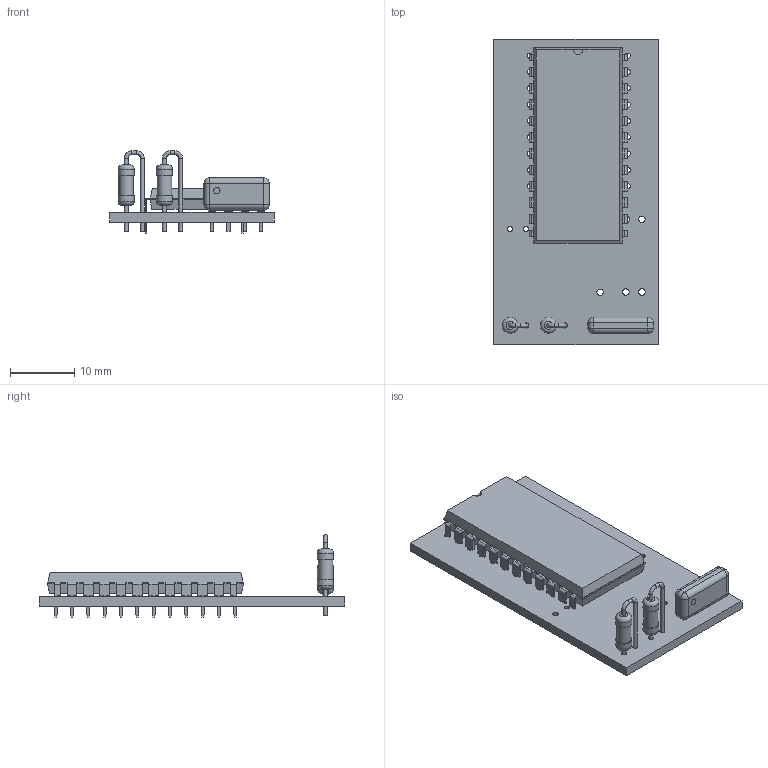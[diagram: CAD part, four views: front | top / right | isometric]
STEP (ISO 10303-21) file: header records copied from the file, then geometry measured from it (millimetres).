
FILE_DESCRIPTION(('KiCad electronic assembly'),'2;1');
FILE_NAME('.step','2026-08-29T18:44:14',('Pcbnew'),('Kicad'), 'Open CASCADE STEP processor 7.9','KiCad to STEP converter','Unknown' );
FILE_SCHEMA(('AUTOMOTIVE_DESIGN { 1 0 10303 214 1 1 1 1 }'));
Length unit declared in the file: millimetre
Products named in the file (8): .step 1; DIP-24_W15.24mm; DIP_24_W1524mm; R_Array_SIP4; R_Axial_DIN0207_L6.3mm_D2.5mm_P2.54mm_Vertical; R_Axial_DIN0207_L63mm_D25mm_P254mm_Vertical; Counter_PCB
Assembly tree (8 placements, depth 3):
  .step 1
    DIP-24_W15.24mm
      DIP_24_W1524mm
    R_Array_SIP4
      R_Array_SIP4
    R_Axial_DIN0207_L6.3mm_D2.5mm_P2.54mm_Vertical  x2
      R_Axial_DIN0207_L63mm_D25mm_P254mm_Vertical
    Counter_PCB
Bounding box: 25.5 x 47.5 x 12.8 mm (x, y, z)
Volume: 3342.6 mm3; surface area: 4496.1 mm2
Topology: 5 solids, 5 shells, 589 faces, 1510 edges, 938 vertices
Faces by surface type: plane 400, cylinder 113, bspline 60, sphere 8, torus 8
Full cylindrical faces by diameter (mm): 0.6 x8, 0.8 x31, 1 x7, 2.25 x2, 2.5 x4
Entity records: 21002 total; most frequent: CARTESIAN_POINT 3183, ORIENTED_EDGE 2950, DIRECTION 2722, EDGE_CURVE 1475, LINE 1232, VECTOR 1232, VERTEX_POINT 922, AXIS2_PLACEMENT_3D 745
